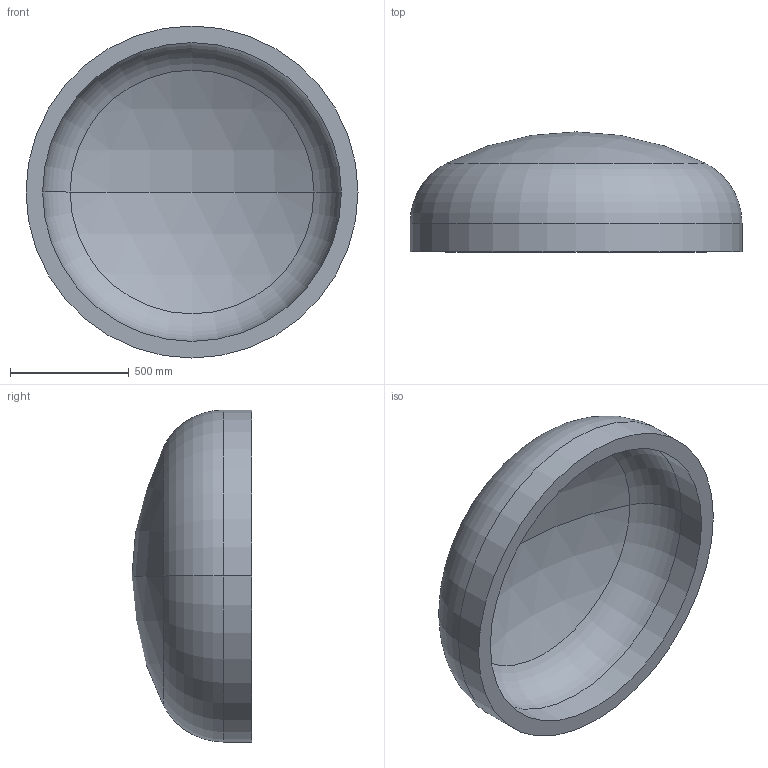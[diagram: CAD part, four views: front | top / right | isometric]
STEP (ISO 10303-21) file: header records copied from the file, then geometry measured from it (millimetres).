
FILE_DESCRIPTION (( 'STEP AP203' ), '1' );
FILE_NAME ('DIN 28013 Korbbogenform_-_Boden DIN 28013 - 1400 x 120 - I - s=70.step', '2016-07-01T10:24:08', ( '' ), ( '' ), 'SwSTEP 2.0', 'SolidWorks 2013', '' );
FILE_SCHEMA (( 'CONFIG_CONTROL_DESIGN' ));
Length unit declared in the file: millimetre
Products named in the file (1): DIN 28013 Korbbogenform_-_Boden DIN 28013 - 1400 x 120 - I - s=70
Bounding box: 1400 x 505.76 x 1400 mm (x, y, z)
Volume: 174971973.4 mm3; surface area: 5301942.8 mm2
Topology: 1 solids, 1 shells, 13 faces, 24 edges, 14 vertices
Faces by surface type: torus 4, cylinder 4, sphere 4, plane 1
Entity records: 407 total; most frequent: DIRECTION 72, CARTESIAN_POINT 52, ORIENTED_EDGE 48, AXIS2_PLACEMENT_3D 34, EDGE_CURVE 24, CIRCLE 20, VERTEX_POINT 14, EDGE_LOOP 14
